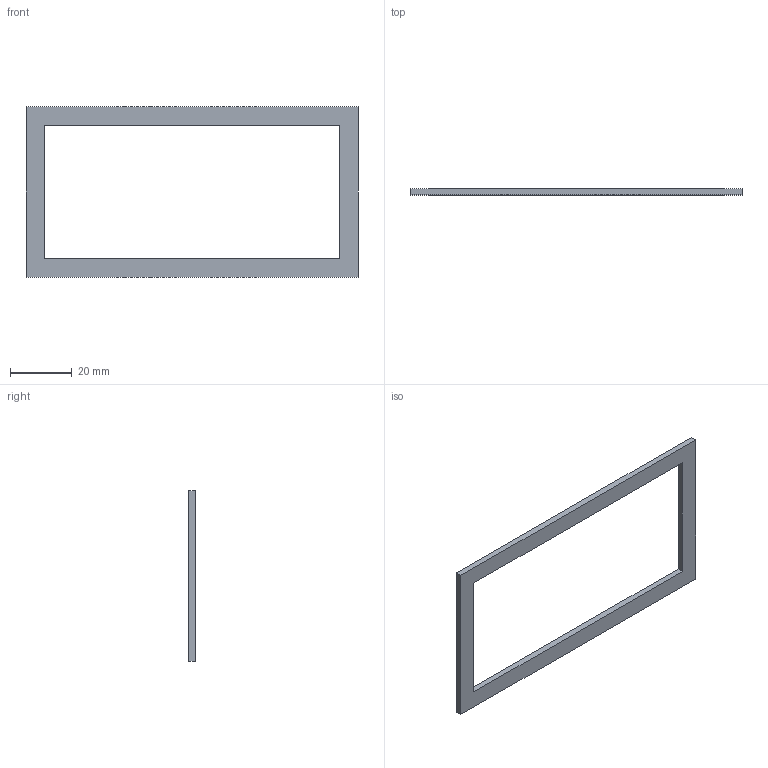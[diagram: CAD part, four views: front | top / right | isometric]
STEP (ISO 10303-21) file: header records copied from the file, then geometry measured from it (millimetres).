
FILE_DESCRIPTION(('Open CASCADE Model'),'2;1');
FILE_NAME('Open CASCADE Shape Model','2026-09-29T12:48:02',('Author'),( 'Open CASCADE'),'Open CASCADE STEP processor 7.9','Open CASCADE 7.9' ,'Unknown');
FILE_SCHEMA(('AUTOMOTIVE_DESIGN { 1 0 10303 214 1 1 1 1 }'));
Length unit declared in the file: millimetre
Products named in the file (1): Open CASCADE STEP translator 7.9 8
Bounding box: 107.8 x 2 x 55.3 mm (x, y, z)
Volume: 3626.4 mm3; surface area: 4835.2 mm2
Topology: 1 solids, 1 shells, 10 faces, 24 edges, 16 vertices
Faces by surface type: plane 10
Entity records: 598 total; most frequent: CARTESIAN_POINT 115, DIRECTION 78, LINE 56, VECTOR 56, ORIENTED_EDGE 48, PCURVE 48, DEFINITIONAL_REPRESENTATION 48, EDGE_CURVE 24
